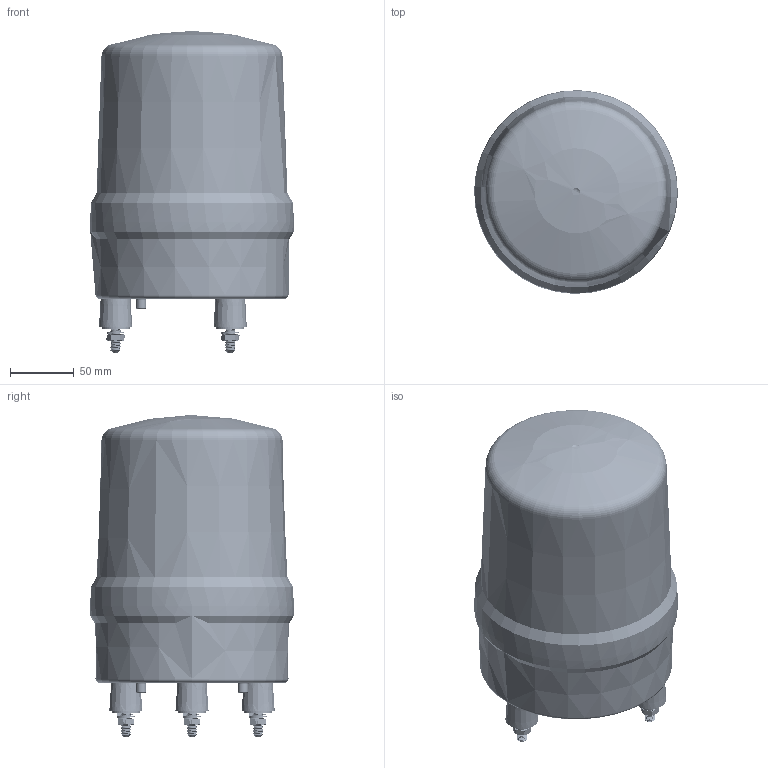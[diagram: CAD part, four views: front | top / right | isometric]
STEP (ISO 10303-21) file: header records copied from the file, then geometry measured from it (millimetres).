
FILE_DESCRIPTION((''),'2;1');
FILE_NAME('PRT0003','2016-06-17T',('Administrator'),(''),'PRO/ENGINEER BY PARAMETRIC TECHNOLOGY CORPORATION, 2012360','PRO/ENGINEER BY PARAMETRIC TECHNOLOGY CORPORATION, 2012360','');
FILE_SCHEMA(('CONFIG_CONTROL_DESIGN'));
Length unit declared in the file: millimetre
Products named in the file (1): PRT0003
Bounding box: 160 x 159.93 x 252.5 mm (x, y, z)
Surface area: 441100.1 mm2 (no closed solid volume)
Topology: 0 solids, 1 shells, 3490 faces, 9796 edges, 6358 vertices
Faces by surface type: cylinder 1269, plane 1180, bspline 583, cone 265, extrusion 102, torus 66, sphere 25
Entity records: 181318 total; most frequent: CARTESIAN_POINT 95329, ORIENTED_EDGE 19576, DIRECTION 15037, EDGE_CURVE 9794, VECTOR 6779, LINE 6677, VERTEX_POINT 6421, AXIS2_PLACEMENT_3D 4129
